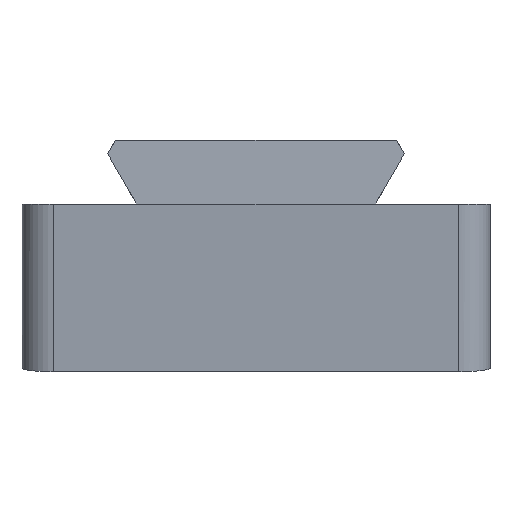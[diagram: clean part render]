
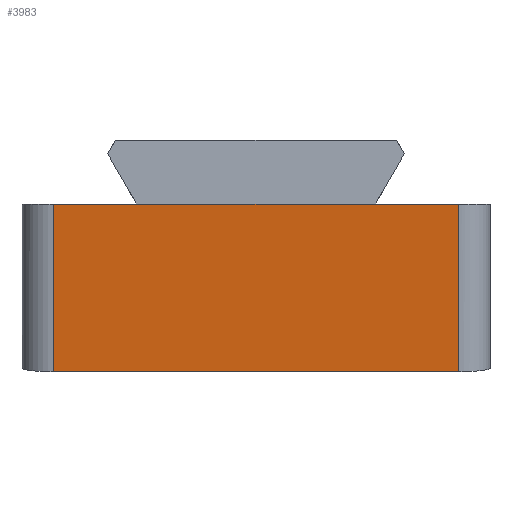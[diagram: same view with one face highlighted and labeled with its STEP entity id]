
A CAD part, left-side view. The second image highlights one B-rep face of the part: STEP entity #3983.
In plain terms, the highlighted planar face has unit normal (-0.995, 0, -0.104).
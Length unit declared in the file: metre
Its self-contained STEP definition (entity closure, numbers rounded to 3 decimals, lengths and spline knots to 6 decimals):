
#618=ORIENTED_EDGE('',*,*,#1644,.T.);
#619=ORIENTED_EDGE('',*,*,#1791,.T.);
#620=ORIENTED_EDGE('',*,*,#1574,.F.);
#621=ORIENTED_EDGE('',*,*,#1792,.T.);
#622=ORIENTED_EDGE('',*,*,#1656,.T.);
#623=ORIENTED_EDGE('',*,*,#1786,.T.);
#1574=EDGE_CURVE('',#2179,#2180,#2582,.T.);
#1644=EDGE_CURVE('',#2240,#2247,#2627,.T.);
#1656=EDGE_CURVE('',#2256,#2232,#2633,.T.);
#1786=EDGE_CURVE('',#2232,#2240,#2693,.T.);
#1791=EDGE_CURVE('',#2247,#2180,#2694,.T.);
#1792=EDGE_CURVE('',#2179,#2256,#2695,.F.);
#2179=VERTEX_POINT('',#5354);
#2180=VERTEX_POINT('',#5356);
#2232=VERTEX_POINT('',#5467);
#2240=VERTEX_POINT('',#5485);
#2247=VERTEX_POINT('',#5502);
#2256=VERTEX_POINT('',#5524);
#2582=LINE('',#5355,#2955);
#2627=LINE('',#5503,#3000);
#2633=LINE('',#5523,#3006);
#2693=LINE('',#5878,#3066);
#2694=LINE('',#5890,#3067);
#2695=LINE('',#5891,#3068);
#2955=VECTOR('',#4470,1.);
#3000=VECTOR('',#4585,1.);
#3006=VECTOR('',#4603,1.);
#3066=VECTOR('',#4719,1.);
#3067=VECTOR('',#4738,1.);
#3068=VECTOR('',#4739,1.);
#3367=EDGE_LOOP('',(#618,#619,#620,#621,#622,#623));
#3628=FACE_BOUND('',#3367,.T.);
#3864=PLANE('',#4281);
#3983=ADVANCED_FACE('',(#3628),#3864,.F.);
#4281=AXIS2_PLACEMENT_3D('',#5889,#4736,#4737);
#4470=DIRECTION('',(0.,1.,0.));
#4585=DIRECTION('',(0.,1.,0.));
#4603=DIRECTION('',(0.,1.,0.));
#4719=DIRECTION('',(0.,1.,0.));
#4736=DIRECTION('',(0.995,0.,0.105));
#4737=DIRECTION('',(0.105,0.,-0.995));
#4738=DIRECTION('',(0.105,0.,-0.995));
#4739=DIRECTION('',(0.105,0.,-0.995));
#5354=CARTESIAN_POINT('',(0.001127,-0.013,-0.010722));
#5355=CARTESIAN_POINT('',(0.001127,-0.015,-0.010722));
#5356=CARTESIAN_POINT('',(0.001127,0.013,-0.010722));
#5467=CARTESIAN_POINT('',(0.,-0.007695,0.));
#5485=CARTESIAN_POINT('',(0.,0.007695,0.));
#5502=CARTESIAN_POINT('',(0.,0.013,0.));
#5503=CARTESIAN_POINT('',(0.,-0.015,0.));
#5523=CARTESIAN_POINT('',(0.,-0.015,0.));
#5524=CARTESIAN_POINT('',(0.,-0.013,0.));
#5878=CARTESIAN_POINT('',(0.,0.,0.));
#5889=CARTESIAN_POINT('',(0.000563,-0.015,-0.005361));
#5890=CARTESIAN_POINT('',(0.000563,0.013,-0.005361));
#5891=CARTESIAN_POINT('',(0.,-0.013,0.));
